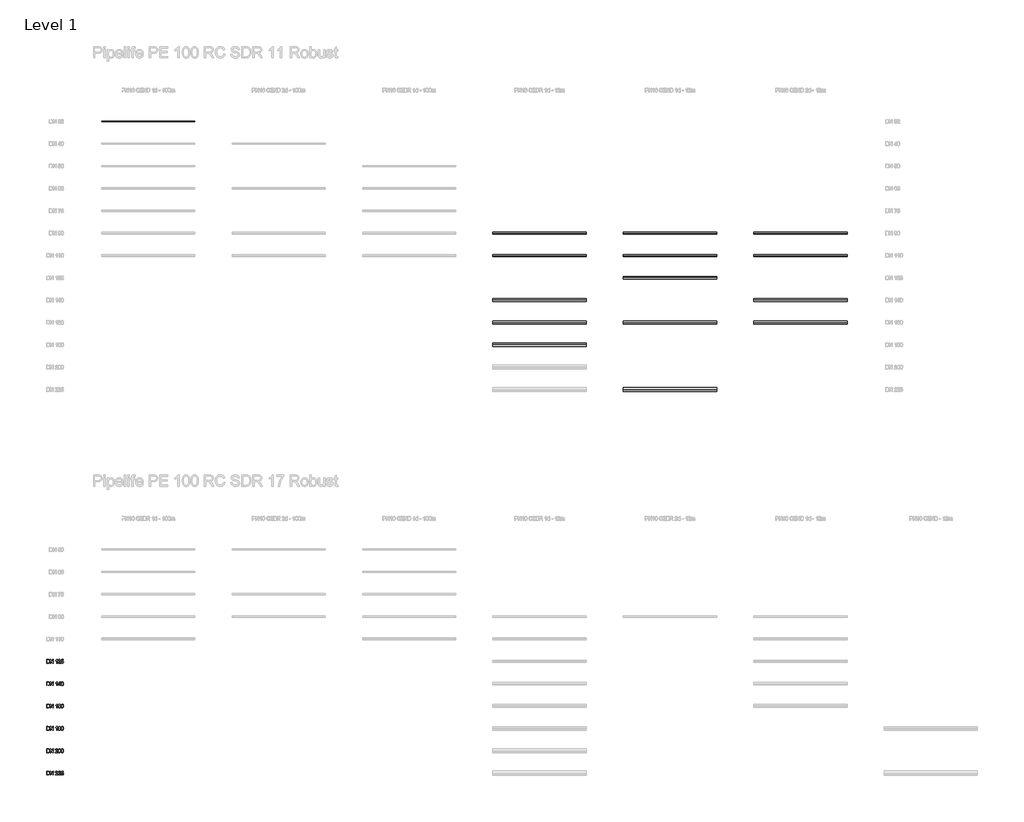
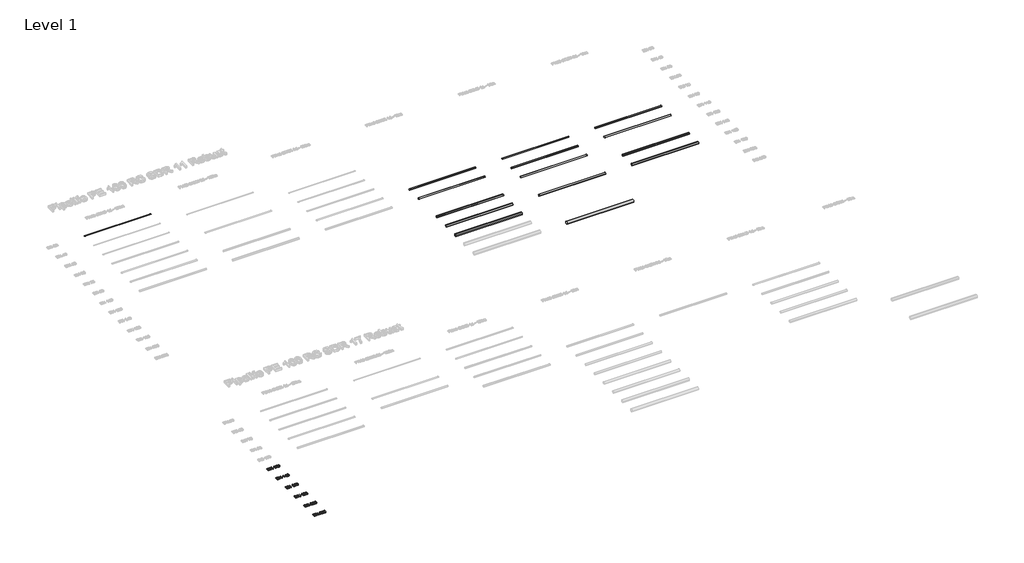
# One storey, part 2 of 13: 15 pipe segments, 6 proxies.
"""IFC4 building model written with IfcOpenShell, lengths in millimetres."""

from ifc_helpers import new_model, si_unit, point, frame, frame_2d, origin, origin_with_axes, place, context, project, spatial, polyline, circle_curve, trimmed, segment, composite_curve, outline, extrude, element, save

model = new_model("IFC4")

# Units and contexts
model_context = context("Model", 3, world=origin())
ifc_project = project(units=[si_unit("LENGTHUNIT", "METRE", prefix="MILLI")], contexts=[model_context])

# Site, building, storey
site = spatial("IfcSite", under=ifc_project)
building = spatial("IfcBuilding", under=site)
storey = spatial("IfcBuildingStorey", under=building, Name="Level 1", Elevation=0.0)

# Proxies
placement = place(None, origin())
element("IfcBuildingElementProxy", 1, Name="200mm Arial", ObjectType="200mm Arial", at=placement, inside=storey, context=model_context, shape_type="SweptSolid", body=[
    extrude(outline(polyline([(-19491.3116028, -30913.949573), (-19491.3116028, -30713.0369527), (-19422.0026349, -30713.0369527), (-19386.1464031, -30715.9309577), (-19370.1312736, -30721.5105013), (-19356.6177416, -30730.302881), (-19342.724065, -30745.606772), (-19332.8280393, -30764.6385338), (-19326.9051392, -30787.0302846), (-19324.9308391, -30812.4141423), (-19330.2773908, -30852.9547382), (-19344.0116519, -30882.2136195), (-19362.3567008, -30900.436041), (-19386.3671323, -30910.5160077), (-19418.6671715, -30913.949573), (-19491.3116028, -30913.949573)]), holes=[polyline([(-19466.1975253, -30888.8354954), (-19421.7573803, -30888.8354954), (-19389.4328156, -30885.2057264), (-19370.7934612, -30874.9540815), (-19362.0685265, -30864.0831685), (-19355.5140957, -30850.0116822), (-19351.4122114, -30832.6783089), (-19350.0449167, -30812.0217348), (-19352.7243239, -30784.6513144), (-19360.7625455, -30764.4423301), (-19372.6390025, -30750.5609162), (-19386.8331162, -30742.1732067), (-19422.4440933, -30738.1510302), (-19466.1975253, -30738.1510302), (-19466.1975253, -30888.8354954)])]), origin_with_axes(), (0.0, 0.0, 1.0), 50.0),
    extrude(outline(polyline([(-19290.3989825, -30913.949573), (-19290.3989825, -30713.0369527), (-19263.5190714, -30713.0369527), (-19158.5500754, -30872.2072292), (-19158.5500754, -30713.0369527), (-19133.4359979, -30713.0369527), (-19133.4359979, -30913.949573), (-19160.315909, -30913.949573), (-19265.284905, -30754.7302454), (-19265.284905, -30913.949573), (-19290.3989825, -30913.949573)])), origin_with_axes(), (0.0, 0.0, 1.0), 50.0),
    extrude(outline(polyline([(-18926.2448582, -30913.949573), (-18951.3589358, -30913.949573), (-18951.3589358, -30757.3789958), (-18975.1486381, -30774.3260931), (-19001.5870908, -30787.0057592), (-19001.5870908, -30763.2651077), (-18964.7743658, -30739.769711), (-18951.3037535, -30726.1948653), (-18942.431666, -30713.0369527), (-18926.2448582, -30713.0369527), (-18926.2448582, -30913.949573)])), origin_with_axes(), (0.0, 0.0, 1.0), 50.0),
    extrude(outline(polyline([(-18737.8892767, -30766.4043674), (-18763.0033542, -30769.5436271), (-18772.5192352, -30748.5988789), (-18783.9113143, -30740.7629924), (-18797.6823636, -30738.1510302), (-18820.3438945, -30744.2333458), (-18829.7800677, -30753.8411973), (-18837.4871955, -30767.066555), (-18842.6927257, -30785.7733545), (-18844.6241062, -30811.8255311), (-18834.5502709, -30800.0717013), (-18822.4776101, -30791.7882251), (-18809.0805741, -30786.8770005), (-18795.0336133, -30785.2399256), (-18771.8325221, -30789.7158232), (-18752.3593018, -30803.143516), (-18739.1523382, -30823.6590686), (-18734.750017, -30849.3985455), (-18736.8224189, -30867.3818437), (-18743.0396246, -30884.0530295), (-18752.8865994, -30898.1919608), (-18765.8483083, -30908.5784958), (-18781.3361403, -30914.9612484), (-18798.7614842, -30917.0888326), (-18827.2539447, -30911.4479754), (-18849.9461324, -30894.5254036), (-18858.6051549, -30881.4165418), (-18864.7901709, -30864.6533856), (-18869.7381838, -30820.1641897), (-18864.2444793, -30770.144501), (-18857.3773487, -30751.0667539), (-18847.7633659, -30735.9437382), (-18837.3431084, -30725.9220195), (-18825.2612505, -30718.763649), (-18796.1127338, -30713.0369527), (-18774.0766023, -30716.5808825), (-18756.4305292, -30727.2126722), (-18744.0696942, -30744.0984558), (-18737.8892767, -30766.4043674)]), holes=[polyline([(-18844.6241062, -30849.0061381), (-18838.8115707, -30870.7602267), (-18823.3605269, -30886.554627), (-18800.7235215, -30891.9747551), (-18784.1504376, -30889.1665892), (-18771.1212836, -30880.7420915), (-18762.6783918, -30867.4983397), (-18759.8640945, -30850.2324114), (-18762.6416036, -30833.6593275), (-18770.9741308, -30821.022581), (-18784.224014, -30813.0211476), (-18801.7535911, -30810.3540031), (-18818.3021495, -30813.0211476), (-18832.1406439, -30821.022581), (-18841.5032406, -30833.3527592), (-18844.6241062, -30849.0061381)])]), origin_with_axes(), (0.0, 0.0, 1.0), 50.0),
    extrude(outline(polyline([(-18712.7751992, -30815.1119436), (-18710.9296578, -30782.9529258), (-18705.3930338, -30757.3054194), (-18696.2205094, -30737.7770168), (-18683.4672669, -30723.9753106), (-18667.0413358, -30715.7715422), (-18646.8507456, -30713.0369527), (-18631.3751764, -30714.6556334), (-18617.5182879, -30719.5116758), (-18605.930005, -30727.4150073), (-18597.2602527, -30738.1755557), (-18585.4880288, -30767.9004209), (-18580.9262921, -30815.1119436), (-18582.7534393, -30847.0870203), (-18588.2348811, -30872.6732131), (-18597.3522232, -30892.2200098), (-18610.0870716, -30906.0768983), (-18626.5497909, -30914.335849), (-18646.8507456, -30917.0888326), (-18672.9458418, -30912.3063667), (-18692.7624186, -30897.9589689), (-18701.5180101, -30882.8298218), (-18707.772004, -30863.9789353), (-18712.7751992, -30815.1119436)]), holes=[polyline([(-18687.6611216, -30815.0628927), (-18684.7180657, -30854.5672876), (-18675.8888978, -30877.4311536), (-18662.7432478, -30888.3388547), (-18646.8507456, -30891.9747551), (-18630.9582434, -30888.326592), (-18617.8125935, -30877.3821026), (-18608.9834256, -30854.5059739), (-18606.0403696, -30815.0628927), (-18608.8853237, -30776.4475459), (-18617.420186, -30753.4058703), (-18630.5413105, -30741.9647402), (-18647.1450512, -30738.1510302), (-18662.8658751, -30741.5110191), (-18675.4964903, -30751.5909857), (-18684.6199638, -30776.0674012), (-18687.6611216, -30815.0628927)])]), origin_with_axes(), (0.0, 0.0, 1.0), 50.0),
])
element("IfcBuildingElementProxy", 2, Name="200mm Arial", ObjectType="200mm Arial", at=placement, inside=storey, context=model_context, shape_type="SweptSolid", body=[
    extrude(outline(polyline([(-19491.3116028, -33313.949573), (-19491.3116028, -33113.0369527), (-19422.0026349, -33113.0369527), (-19386.1464031, -33115.9309577), (-19370.1312736, -33121.5105013), (-19356.6177416, -33130.302881), (-19342.724065, -33145.606772), (-19332.8280393, -33164.6385338), (-19326.9051392, -33187.0302846), (-19324.9308391, -33212.4141423), (-19330.2773908, -33252.9547382), (-19344.0116519, -33282.2136195), (-19362.3567008, -33300.436041), (-19386.3671323, -33310.5160077), (-19418.6671715, -33313.949573), (-19491.3116028, -33313.949573)]), holes=[polyline([(-19466.1975253, -33288.8354954), (-19421.7573803, -33288.8354954), (-19389.4328156, -33285.2057264), (-19370.7934612, -33274.9540815), (-19362.0685265, -33264.0831685), (-19355.5140957, -33250.0116822), (-19351.4122114, -33232.6783089), (-19350.0449167, -33212.0217348), (-19352.7243239, -33184.6513144), (-19360.7625455, -33164.4423301), (-19372.6390025, -33150.5609162), (-19386.8331162, -33142.1732067), (-19422.4440933, -33138.1510302), (-19466.1975253, -33138.1510302), (-19466.1975253, -33288.8354954)])]), origin_with_axes(), (0.0, 0.0, 1.0), 50.0),
    extrude(outline(polyline([(-19290.3989825, -33313.949573), (-19290.3989825, -33113.0369527), (-19263.5190714, -33113.0369527), (-19158.5500754, -33272.2072292), (-19158.5500754, -33113.0369527), (-19133.4359979, -33113.0369527), (-19133.4359979, -33313.949573), (-19160.315909, -33313.949573), (-19265.284905, -33154.7302454), (-19265.284905, -33313.949573), (-19290.3989825, -33313.949573)])), origin_with_axes(), (0.0, 0.0, 1.0), 50.0),
    extrude(outline(polyline([(-18891.7130016, -33288.8354954), (-18891.7130016, -33313.949573), (-19023.5619087, -33313.949573), (-19020.8641074, -33296.6345937), (-19005.6092673, -33269.9754118), (-18974.1676195, -33240.8636832), (-18930.806595, -33199.0232377), (-18922.6764029, -33184.6022634), (-18919.9663388, -33170.5736967), (-18922.5231187, -33157.9982638), (-18930.1934583, -33147.5442838), (-18941.9840762, -33140.4993436), (-18956.9016912, -33138.1510302), (-18972.5673328, -33140.4441613), (-18984.7380955, -33147.3235546), (-18992.5923761, -33158.2496499), (-18995.3085714, -33172.6828868), (-19020.422649, -33169.5436271), (-19014.334202, -33145.2511527), (-19001.1701579, -33127.5069778), (-18981.6172299, -33116.6544589), (-18956.3621309, -33113.0369527), (-18930.9230909, -33117.0591291), (-18911.4069511, -33129.1256586), (-18898.9909337, -33147.1518763), (-18894.8522613, -33169.0531178), (-18899.3158962, -33192.8673456), (-18914.1538033, -33217.4909138), (-18950.1326624, -33251.9001431), (-18979.0236618, -33276.0577275), (-18990.3544272, -33288.8354954), (-18891.7130016, -33288.8354954)])), origin_with_axes(), (0.0, 0.0, 1.0), 50.0),
    extrude(outline(polyline([(-18866.5989241, -33215.1119436), (-18864.7533827, -33182.9529258), (-18859.2167587, -33157.3054194), (-18850.0442343, -33137.7770168), (-18837.2909918, -33123.9753106), (-18820.8650607, -33115.7715422), (-18800.6744705, -33113.0369527), (-18785.1989013, -33114.6556334), (-18771.3420128, -33119.5116758), (-18759.7537299, -33127.4150073), (-18751.0839776, -33138.1755557), (-18739.3117537, -33167.9004209), (-18734.750017, -33215.1119436), (-18736.5771642, -33247.0870203), (-18742.058606, -33272.6732131), (-18751.1759481, -33292.2200098), (-18763.9107965, -33306.0768983), (-18780.3735158, -33314.335849), (-18800.6744705, -33317.0888326), (-18826.7695667, -33312.3063667), (-18846.5861435, -33297.9589689), (-18855.341735, -33282.8298218), (-18861.5957289, -33263.9789353), (-18866.5989241, -33215.1119436)]), holes=[polyline([(-18841.4848465, -33215.0628927), (-18838.5417906, -33254.5672876), (-18829.7126227, -33277.4311536), (-18816.5669727, -33288.3388547), (-18800.6744705, -33291.9747551), (-18784.7819683, -33288.326592), (-18771.6363184, -33277.3821026), (-18762.8071505, -33254.5059739), (-18759.8640945, -33215.0628927), (-18762.7090486, -33176.4475459), (-18771.2439109, -33153.4058703), (-18784.3650354, -33141.9647402), (-18800.9687761, -33138.1510302), (-18816.6896001, -33141.5110191), (-18829.3202152, -33151.5909857), (-18838.4436887, -33176.0674012), (-18841.4848465, -33215.0628927)])]), origin_with_axes(), (0.0, 0.0, 1.0), 50.0),
    extrude(outline(polyline([(-18712.7751992, -33215.1119436), (-18710.9296578, -33182.9529258), (-18705.3930338, -33157.3054194), (-18696.2205094, -33137.7770168), (-18683.4672669, -33123.9753106), (-18667.0413358, -33115.7715422), (-18646.8507456, -33113.0369527), (-18631.3751764, -33114.6556334), (-18617.5182879, -33119.5116758), (-18605.930005, -33127.4150073), (-18597.2602527, -33138.1755557), (-18585.4880288, -33167.9004209), (-18580.9262921, -33215.1119436), (-18582.7534393, -33247.0870203), (-18588.2348811, -33272.6732131), (-18597.3522232, -33292.2200098), (-18610.0870716, -33306.0768983), (-18626.5497909, -33314.335849), (-18646.8507456, -33317.0888326), (-18672.9458418, -33312.3063667), (-18692.7624186, -33297.9589689), (-18701.5180101, -33282.8298218), (-18707.772004, -33263.9789353), (-18712.7751992, -33215.1119436)]), holes=[polyline([(-18687.6611216, -33215.0628927), (-18684.7180657, -33254.5672876), (-18675.8888978, -33277.4311536), (-18662.7432478, -33288.3388547), (-18646.8507456, -33291.9747551), (-18630.9582434, -33288.326592), (-18617.8125935, -33277.3821026), (-18608.9834256, -33254.5059739), (-18606.0403696, -33215.0628927), (-18608.8853237, -33176.4475459), (-18617.420186, -33153.4058703), (-18630.5413105, -33141.9647402), (-18647.1450512, -33138.1510302), (-18662.8658751, -33141.5110191), (-18675.4964903, -33151.5909857), (-18684.6199638, -33176.0674012), (-18687.6611216, -33215.0628927)])]), origin_with_axes(), (0.0, 0.0, 1.0), 50.0),
])
element("IfcBuildingElementProxy", 3, Name="200mm Arial", ObjectType="200mm Arial", at=placement, inside=storey, context=model_context, shape_type="SweptSolid", body=[
    extrude(outline(polyline([(-19491.3116028, -28513.949573), (-19491.3116028, -28313.0369527), (-19422.0026349, -28313.0369527), (-19386.1464031, -28315.9309577), (-19370.1312736, -28321.5105013), (-19356.6177416, -28330.302881), (-19342.724065, -28345.606772), (-19332.8280393, -28364.6385338), (-19326.9051392, -28387.0302846), (-19324.9308391, -28412.4141423), (-19330.2773908, -28452.9547382), (-19344.0116519, -28482.2136195), (-19362.3567008, -28500.436041), (-19386.3671323, -28510.5160077), (-19418.6671715, -28513.949573), (-19491.3116028, -28513.949573)]), holes=[polyline([(-19466.1975253, -28488.8354954), (-19421.7573803, -28488.8354954), (-19389.4328156, -28485.2057264), (-19370.7934612, -28474.9540815), (-19362.0685265, -28464.0831685), (-19355.5140957, -28450.0116822), (-19351.4122114, -28432.6783089), (-19350.0449167, -28412.0217348), (-19352.7243239, -28384.6513144), (-19360.7625455, -28364.4423301), (-19372.6390025, -28350.5609162), (-19386.8331162, -28342.1732067), (-19422.4440933, -28338.1510302), (-19466.1975253, -28338.1510302), (-19466.1975253, -28488.8354954)])]), origin_with_axes(), (0.0, 0.0, 1.0), 50.0),
    extrude(outline(polyline([(-19290.3989825, -28513.949573), (-19290.3989825, -28313.0369527), (-19263.5190714, -28313.0369527), (-19158.5500754, -28472.2072292), (-19158.5500754, -28313.0369527), (-19133.4359979, -28313.0369527), (-19133.4359979, -28513.949573), (-19160.315909, -28513.949573), (-19265.284905, -28354.7302454), (-19265.284905, -28513.949573), (-19290.3989825, -28513.949573)])), origin_with_axes(), (0.0, 0.0, 1.0), 50.0),
    extrude(outline(polyline([(-18926.2448582, -28513.949573), (-18951.3589358, -28513.949573), (-18951.3589358, -28357.3789958), (-18975.1486381, -28374.3260931), (-19001.5870908, -28387.0057592), (-19001.5870908, -28363.2651077), (-18964.7743658, -28339.769711), (-18951.3037535, -28326.1948653), (-18942.431666, -28313.0369527), (-18926.2448582, -28313.0369527), (-18926.2448582, -28513.949573)])), origin_with_axes(), (0.0, 0.0, 1.0), 50.0),
    extrude(outline(polyline([(-18737.8892767, -28488.8354954), (-18737.8892767, -28513.949573), (-18869.7381838, -28513.949573), (-18867.0403825, -28496.6345937), (-18851.7855424, -28469.9754118), (-18820.3438945, -28440.8636832), (-18776.98287, -28399.0232377), (-18768.852678, -28384.6022634), (-18766.1426139, -28370.5736967), (-18768.6993938, -28357.9982638), (-18776.3697334, -28347.5442838), (-18788.1603513, -28340.4993436), (-18803.0779662, -28338.1510302), (-18818.7436079, -28340.4441613), (-18830.9143705, -28347.3235546), (-18838.7686511, -28358.2496499), (-18841.4848465, -28372.6828868), (-18866.5989241, -28369.5436271), (-18860.510477, -28345.2511527), (-18847.346433, -28327.5069778), (-18827.7935049, -28316.6544589), (-18802.538406, -28313.0369527), (-18777.099366, -28317.0591291), (-18757.5832262, -28329.1256586), (-18745.1672088, -28347.1518763), (-18741.0285364, -28369.0531178), (-18745.4921713, -28392.8673456), (-18760.3300784, -28417.4909138), (-18796.3089375, -28451.9001431), (-18825.1999369, -28476.0577275), (-18836.5307023, -28488.8354954), (-18737.8892767, -28488.8354954)])), origin_with_axes(), (0.0, 0.0, 1.0), 50.0),
    extrude(outline(polyline([(-18712.7751992, -28460.5821582), (-18687.6611216, -28457.4428985), (-18683.0503339, -28472.5199289), (-18675.005981, -28483.3172655), (-18663.5648509, -28489.8103827), (-18648.763732, -28491.9747551), (-18630.7620397, -28488.9642541), (-18617.2730332, -28479.9327511), (-18608.8485355, -28465.9225785), (-18606.0403696, -28447.9760685), (-18608.6707259, -28431.0780222), (-18616.5617947, -28418.1531014), (-18629.7748897, -28409.9493329), (-18648.3713245, -28407.2147434), (-18670.4197188, -28411.5802764), (-18684.5218619, -28422.9110419), (-18709.6359395, -28419.7717822), (-18687.6611216, -28316.1762123), (-18590.3440712, -28316.1762123), (-18590.3440712, -28341.2902899), (-18667.3540355, -28341.2902899), (-18678.0961897, -28396.619742), (-18660.1558111, -28385.7304349), (-18641.3570412, -28382.1006659), (-18617.8923012, -28386.601089), (-18598.4129496, -28400.1023582), (-18585.2979565, -28420.6792244), (-18580.9262921, -28446.4064386), (-18584.8626294, -28471.5205162), (-18596.6716415, -28493.0048247), (-18607.1072274, -28503.5415782), (-18619.2841214, -28511.0678307), (-18633.2023236, -28515.5835821), (-18648.8618339, -28517.0888326), (-18673.5283216, -28513.2199403), (-18693.1793515, -28501.6132634), (-18706.6499639, -28483.6177025), (-18712.7751992, -28460.5821582)])), origin_with_axes(), (0.0, 0.0, 1.0), 50.0),
])
element("IfcBuildingElementProxy", 4, Name="200mm Arial", ObjectType="200mm Arial", at=placement, inside=storey, context=model_context, shape_type="SweptSolid", body=[
    extrude(outline(polyline([(-19491.3116028, -29713.949573), (-19491.3116028, -29513.0369527), (-19422.0026349, -29513.0369527), (-19386.1464031, -29515.9309577), (-19370.1312736, -29521.5105013), (-19356.6177416, -29530.302881), (-19342.724065, -29545.606772), (-19332.8280393, -29564.6385338), (-19326.9051392, -29587.0302846), (-19324.9308391, -29612.4141423), (-19330.2773908, -29652.9547382), (-19344.0116519, -29682.2136195), (-19362.3567008, -29700.436041), (-19386.3671323, -29710.5160077), (-19418.6671715, -29713.949573), (-19491.3116028, -29713.949573)]), holes=[polyline([(-19466.1975253, -29688.8354954), (-19421.7573803, -29688.8354954), (-19389.4328156, -29685.2057264), (-19370.7934612, -29674.9540815), (-19362.0685265, -29664.0831685), (-19355.5140957, -29650.0116822), (-19351.4122114, -29632.6783089), (-19350.0449167, -29612.0217348), (-19352.7243239, -29584.6513144), (-19360.7625455, -29564.4423301), (-19372.6390025, -29550.5609162), (-19386.8331162, -29542.1732067), (-19422.4440933, -29538.1510302), (-19466.1975253, -29538.1510302), (-19466.1975253, -29688.8354954)])]), origin_with_axes(), (0.0, 0.0, 1.0), 50.0),
    extrude(outline(polyline([(-19290.3989825, -29713.949573), (-19290.3989825, -29513.0369527), (-19263.5190714, -29513.0369527), (-19158.5500754, -29672.2072292), (-19158.5500754, -29513.0369527), (-19133.4359979, -29513.0369527), (-19133.4359979, -29713.949573), (-19160.315909, -29713.949573), (-19265.284905, -29554.7302454), (-19265.284905, -29713.949573), (-19290.3989825, -29713.949573)])), origin_with_axes(), (0.0, 0.0, 1.0), 50.0),
    extrude(outline(polyline([(-18926.2448582, -29713.949573), (-18951.3589358, -29713.949573), (-18951.3589358, -29557.3789958), (-18975.1486381, -29574.3260931), (-19001.5870908, -29587.0057592), (-19001.5870908, -29563.2651077), (-18964.7743658, -29539.769711), (-18951.3037535, -29526.1948653), (-18942.431666, -29513.0369527), (-18926.2448582, -29513.0369527), (-18926.2448582, -29713.949573)])), origin_with_axes(), (0.0, 0.0, 1.0), 50.0),
    extrude(outline(polyline([(-18784.9781721, -29713.949573), (-18784.9781721, -29666.8606776), (-18876.0167031, -29666.8606776), (-18876.0167031, -29641.7466), (-18778.6996527, -29516.1762123), (-18759.8640945, -29516.1762123), (-18759.8640945, -29641.7466), (-18734.750017, -29641.7466), (-18734.750017, -29666.8606776), (-18759.8640945, -29666.8606776), (-18759.8640945, -29713.949573), (-18784.9781721, -29713.949573)]), holes=[polyline([(-18784.9781721, -29641.7466), (-18784.9781721, -29564.1480245), (-18845.1146156, -29641.7466), (-18784.9781721, -29641.7466)])]), origin_with_axes(), (0.0, 0.0, 1.0), 50.0),
    extrude(outline(polyline([(-18712.7751992, -29615.1119436), (-18710.9296578, -29582.9529258), (-18705.3930338, -29557.3054194), (-18696.2205094, -29537.7770168), (-18683.4672669, -29523.9753106), (-18667.0413358, -29515.7715422), (-18646.8507456, -29513.0369527), (-18631.3751764, -29514.6556334), (-18617.5182879, -29519.5116758), (-18605.930005, -29527.4150073), (-18597.2602527, -29538.1755557), (-18585.4880288, -29567.9004209), (-18580.9262921, -29615.1119436), (-18582.7534393, -29647.0870203), (-18588.2348811, -29672.6732131), (-18597.3522232, -29692.2200098), (-18610.0870716, -29706.0768983), (-18626.5497909, -29714.335849), (-18646.8507456, -29717.0888326), (-18672.9458418, -29712.3063667), (-18692.7624186, -29697.9589689), (-18701.5180101, -29682.8298218), (-18707.772004, -29663.9789353), (-18712.7751992, -29615.1119436)]), holes=[polyline([(-18687.6611216, -29615.0628927), (-18684.7180657, -29654.5672876), (-18675.8888978, -29677.4311536), (-18662.7432478, -29688.3388547), (-18646.8507456, -29691.9747551), (-18630.9582434, -29688.326592), (-18617.8125935, -29677.3821026), (-18608.9834256, -29654.5059739), (-18606.0403696, -29615.0628927), (-18608.8853237, -29576.4475459), (-18617.420186, -29553.4058703), (-18630.5413105, -29541.9647402), (-18647.1450512, -29538.1510302), (-18662.8658751, -29541.5110191), (-18675.4964903, -29551.5909857), (-18684.6199638, -29576.0674012), (-18687.6611216, -29615.0628927)])]), origin_with_axes(), (0.0, 0.0, 1.0), 50.0),
])
element("IfcBuildingElementProxy", 5, Name="200mm Arial", ObjectType="200mm Arial", at=placement, inside=storey, context=model_context, shape_type="SweptSolid", body=[
    extrude(outline(polyline([(-19491.3116028, -32113.949573), (-19491.3116028, -31913.0369527), (-19422.0026349, -31913.0369527), (-19386.1464031, -31915.9309577), (-19370.1312736, -31921.5105013), (-19356.6177416, -31930.302881), (-19342.724065, -31945.606772), (-19332.8280393, -31964.6385338), (-19326.9051392, -31987.0302846), (-19324.9308391, -32012.4141423), (-19330.2773908, -32052.9547382), (-19344.0116519, -32082.2136195), (-19362.3567008, -32100.436041), (-19386.3671323, -32110.5160077), (-19418.6671715, -32113.949573), (-19491.3116028, -32113.949573)]), holes=[polyline([(-19466.1975253, -32088.8354954), (-19421.7573803, -32088.8354954), (-19389.4328156, -32085.2057264), (-19370.7934612, -32074.9540815), (-19362.0685265, -32064.0831685), (-19355.5140957, -32050.0116822), (-19351.4122114, -32032.6783089), (-19350.0449167, -32012.0217348), (-19352.7243239, -31984.6513144), (-19360.7625455, -31964.4423301), (-19372.6390025, -31950.5609162), (-19386.8331162, -31942.1732067), (-19422.4440933, -31938.1510302), (-19466.1975253, -31938.1510302), (-19466.1975253, -32088.8354954)])]), origin_with_axes(), (0.0, 0.0, 1.0), 50.0),
    extrude(outline(polyline([(-19290.3989825, -32113.949573), (-19290.3989825, -31913.0369527), (-19263.5190714, -31913.0369527), (-19158.5500754, -32072.2072292), (-19158.5500754, -31913.0369527), (-19133.4359979, -31913.0369527), (-19133.4359979, -32113.949573), (-19160.315909, -32113.949573), (-19265.284905, -31954.7302454), (-19265.284905, -32113.949573), (-19290.3989825, -32113.949573)])), origin_with_axes(), (0.0, 0.0, 1.0), 50.0),
    extrude(outline(polyline([(-18926.2448582, -32113.949573), (-18951.3589358, -32113.949573), (-18951.3589358, -31957.3789958), (-18975.1486381, -31974.3260931), (-19001.5870908, -31987.0057592), (-19001.5870908, -31963.2651077), (-18964.7743658, -31939.769711), (-18951.3037535, -31926.1948653), (-18942.431666, -31913.0369527), (-18926.2448582, -31913.0369527), (-18926.2448582, -32113.949573)])), origin_with_axes(), (0.0, 0.0, 1.0), 50.0),
    extrude(outline(polyline([(-18830.0069283, -32003.2906688), (-18843.4530152, -31996.6687929), (-18852.8891884, -31987.6924722), (-18858.4626006, -31976.5456478), (-18860.3204047, -31963.4122605), (-18856.2737027, -31943.7796247), (-18844.1335969, -31927.5560287), (-18825.2612505, -31916.6667217), (-18801.0178271, -31913.0369527), (-18776.6272508, -31916.7525608), (-18757.5096498, -31927.8993853), (-18745.1488147, -31944.3804986), (-18741.0285364, -31964.0989736), (-18742.861815, -31976.8092965), (-18748.3616508, -31987.7660486), (-18757.5893575, -31996.687187), (-18770.6062488, -32003.2906688), (-18755.1490736, -32011.255314), (-18743.8980159, -32022.9846183), (-18737.0370167, -32037.9144959), (-18734.750017, -32055.4808612), (-18739.2872283, -32079.4912927), (-18752.8988621, -32099.332395), (-18773.9171868, -32112.6497232), (-18800.6744705, -32117.0888326), (-18827.4317543, -32112.6313291), (-18848.450079, -32099.2588186), (-18862.0617128, -32079.227644), (-18866.5989241, -32054.7941481), (-18864.2199538, -32036.5472012), (-18857.0830431, -32021.5376158), (-18845.5560739, -32010.2804267), (-18830.0069283, -32003.2906688)]), holes=[polyline([(-18835.2063271, -31964.1480245), (-18832.9806411, -31975.110908), (-18826.3035829, -31983.8664995), (-18815.3713562, -31989.6054586), (-18800.3801649, -31991.518445), (-18785.7384615, -31989.6177213), (-18774.9717818, -31983.9155504), (-18768.3499059, -31975.4542645), (-18766.1426139, -31965.276196), (-18768.4234823, -31954.7118513), (-18775.2660874, -31945.974654), (-18786.1799199, -31940.1069361), (-18800.6744705, -31938.1510302), (-18815.2609916, -31940.0640166), (-18826.1564301, -31945.8029757), (-18832.9438529, -31954.2152106), (-18835.2063271, -31964.1480245)]), polyline([(-18841.4848465, -32053.9112313), (-18837.2909918, -32072.8203659), (-18831.4845876, -32080.9321639), (-18822.4530846, -32086.97156), (-18800.4782668, -32091.9747551), (-18783.3840168, -32089.3443988), (-18770.5571979, -32081.45333), (-18762.5373704, -32069.5032966), (-18759.8640945, -32054.6960463), (-18762.6232095, -32039.6374099), (-18770.9005544, -32027.4237277), (-18784.0216789, -32019.3303238), (-18801.3121327, -32016.6325225), (-18818.1672594, -32019.2935356), (-18830.8653196, -32027.2765749), (-18838.8299648, -32039.2572652), (-18841.4848465, -32053.9112313)])]), origin_with_axes(), (0.0, 0.0, 1.0), 50.0),
    extrude(outline(polyline([(-18712.7751992, -32015.1119436), (-18710.9296578, -31982.9529258), (-18705.3930338, -31957.3054194), (-18696.2205094, -31937.7770168), (-18683.4672669, -31923.9753106), (-18667.0413358, -31915.7715422), (-18646.8507456, -31913.0369527), (-18631.3751764, -31914.6556334), (-18617.5182879, -31919.5116758), (-18605.930005, -31927.4150073), (-18597.2602527, -31938.1755557), (-18585.4880288, -31967.9004209), (-18580.9262921, -32015.1119436), (-18582.7534393, -32047.0870203), (-18588.2348811, -32072.6732131), (-18597.3522232, -32092.2200098), (-18610.0870716, -32106.0768983), (-18626.5497909, -32114.335849), (-18646.8507456, -32117.0888326), (-18672.9458418, -32112.3063667), (-18692.7624186, -32097.9589689), (-18701.5180101, -32082.8298218), (-18707.772004, -32063.9789353), (-18712.7751992, -32015.1119436)]), holes=[polyline([(-18687.6611216, -32015.0628927), (-18684.7180657, -32054.5672876), (-18675.8888978, -32077.4311536), (-18662.7432478, -32088.3388547), (-18646.8507456, -32091.9747551), (-18630.9582434, -32088.326592), (-18617.8125935, -32077.3821026), (-18608.9834256, -32054.5059739), (-18606.0403696, -32015.0628927), (-18608.8853237, -31976.4475459), (-18617.420186, -31953.4058703), (-18630.5413105, -31941.9647402), (-18647.1450512, -31938.1510302), (-18662.8658751, -31941.5110191), (-18675.4964903, -31951.5909857), (-18684.6199638, -31976.0674012), (-18687.6611216, -32015.0628927)])]), origin_with_axes(), (0.0, 0.0, 1.0), 50.0),
])
element("IfcBuildingElementProxy", 6, Name="200mm Arial", ObjectType="200mm Arial", at=placement, inside=storey, context=model_context, shape_type="SweptSolid", body=[
    extrude(outline(polyline([(-19491.3116028, -34513.949573), (-19491.3116028, -34313.0369527), (-19422.0026349, -34313.0369527), (-19386.1464031, -34315.9309577), (-19370.1312736, -34321.5105013), (-19356.6177416, -34330.302881), (-19342.724065, -34345.606772), (-19332.8280393, -34364.6385338), (-19326.9051392, -34387.0302846), (-19324.9308391, -34412.4141423), (-19330.2773908, -34452.9547382), (-19344.0116519, -34482.2136195), (-19362.3567008, -34500.436041), (-19386.3671323, -34510.5160077), (-19418.6671715, -34513.949573), (-19491.3116028, -34513.949573)]), holes=[polyline([(-19466.1975253, -34488.8354954), (-19421.7573803, -34488.8354954), (-19389.4328156, -34485.2057264), (-19370.7934612, -34474.9540815), (-19362.0685265, -34464.0831685), (-19355.5140957, -34450.0116822), (-19351.4122114, -34432.6783089), (-19350.0449167, -34412.0217348), (-19352.7243239, -34384.6513144), (-19360.7625455, -34364.4423301), (-19372.6390025, -34350.5609162), (-19386.8331162, -34342.1732067), (-19422.4440933, -34338.1510302), (-19466.1975253, -34338.1510302), (-19466.1975253, -34488.8354954)])]), origin_with_axes(), (0.0, 0.0, 1.0), 50.0),
    extrude(outline(polyline([(-19290.3989825, -34513.949573), (-19290.3989825, -34313.0369527), (-19263.5190714, -34313.0369527), (-19158.5500754, -34472.2072292), (-19158.5500754, -34313.0369527), (-19133.4359979, -34313.0369527), (-19133.4359979, -34513.949573), (-19160.315909, -34513.949573), (-19265.284905, -34354.7302454), (-19265.284905, -34513.949573), (-19290.3989825, -34513.949573)])), origin_with_axes(), (0.0, 0.0, 1.0), 50.0),
    extrude(outline(polyline([(-18891.7130016, -34488.8354954), (-18891.7130016, -34513.949573), (-19023.5619087, -34513.949573), (-19020.8641074, -34496.6345937), (-19005.6092673, -34469.9754118), (-18974.1676195, -34440.8636832), (-18930.806595, -34399.0232377), (-18922.6764029, -34384.6022634), (-18919.9663388, -34370.5736967), (-18922.5231187, -34357.9982638), (-18930.1934583, -34347.5442838), (-18941.9840762, -34340.4993436), (-18956.9016912, -34338.1510302), (-18972.5673328, -34340.4441613), (-18984.7380955, -34347.3235546), (-18992.5923761, -34358.2496499), (-18995.3085714, -34372.6828868), (-19020.422649, -34369.5436271), (-19014.334202, -34345.2511527), (-19001.1701579, -34327.5069778), (-18981.6172299, -34316.6544589), (-18956.3621309, -34313.0369527), (-18930.9230909, -34317.0591291), (-18911.4069511, -34329.1256586), (-18898.9909337, -34347.1518763), (-18894.8522613, -34369.0531178), (-18899.3158962, -34392.8673456), (-18914.1538033, -34417.4909138), (-18950.1326624, -34451.9001431), (-18979.0236618, -34476.0577275), (-18990.3544272, -34488.8354954), (-18891.7130016, -34488.8354954)])), origin_with_axes(), (0.0, 0.0, 1.0), 50.0),
    extrude(outline(polyline([(-18737.8892767, -34488.8354954), (-18737.8892767, -34513.949573), (-18869.7381838, -34513.949573), (-18867.0403825, -34496.6345937), (-18851.7855424, -34469.9754118), (-18820.3438945, -34440.8636832), (-18776.98287, -34399.0232377), (-18768.852678, -34384.6022634), (-18766.1426139, -34370.5736967), (-18768.6993938, -34357.9982638), (-18776.3697334, -34347.5442838), (-18788.1603513, -34340.4993436), (-18803.0779662, -34338.1510302), (-18818.7436079, -34340.4441613), (-18830.9143705, -34347.3235546), (-18838.7686511, -34358.2496499), (-18841.4848465, -34372.6828868), (-18866.5989241, -34369.5436271), (-18860.510477, -34345.2511527), (-18847.346433, -34327.5069778), (-18827.7935049, -34316.6544589), (-18802.538406, -34313.0369527), (-18777.099366, -34317.0591291), (-18757.5832262, -34329.1256586), (-18745.1672088, -34347.1518763), (-18741.0285364, -34369.0531178), (-18745.4921713, -34392.8673456), (-18760.3300784, -34417.4909138), (-18796.3089375, -34451.9001431), (-18825.1999369, -34476.0577275), (-18836.5307023, -34488.8354954), (-18737.8892767, -34488.8354954)])), origin_with_axes(), (0.0, 0.0, 1.0), 50.0),
    extrude(outline(polyline([(-18712.7751992, -34460.5821582), (-18687.6611216, -34457.4428985), (-18683.0503339, -34472.5199289), (-18675.005981, -34483.3172655), (-18663.5648509, -34489.8103827), (-18648.763732, -34491.9747551), (-18630.7620397, -34488.9642541), (-18617.2730332, -34479.9327511), (-18608.8485355, -34465.9225785), (-18606.0403696, -34447.9760685), (-18608.6707259, -34431.0780222), (-18616.5617947, -34418.1531014), (-18629.7748897, -34409.9493329), (-18648.3713245, -34407.2147434), (-18670.4197188, -34411.5802764), (-18684.5218619, -34422.9110419), (-18709.6359395, -34419.7717822), (-18687.6611216, -34316.1762123), (-18590.3440712, -34316.1762123), (-18590.3440712, -34341.2902899), (-18667.3540355, -34341.2902899), (-18678.0961897, -34396.619742), (-18660.1558111, -34385.7304349), (-18641.3570412, -34382.1006659), (-18617.8923012, -34386.601089), (-18598.4129496, -34400.1023582), (-18585.2979565, -34420.6792244), (-18580.9262921, -34446.4064386), (-18584.8626294, -34471.5205162), (-18596.6716415, -34493.0048247), (-18607.1072274, -34503.5415782), (-18619.2841214, -34511.0678307), (-18633.2023236, -34515.5835821), (-18648.8618339, -34517.0888326), (-18673.5283216, -34513.2199403), (-18693.1793515, -34501.6132634), (-18706.6499639, -34483.6177025), (-18712.7751992, -34460.5821582)])), origin_with_axes(), (0.0, 0.0, 1.0), 50.0),
])

# Pipe segments
element("IfcPipeSegment", 7, ObjectType="Pipelife ROBUST, SDR 11 czarno/niebieska 1d - 100m", at=placement, inside=storey, context=model_context, shape_type="SweptSolid", body=[
    extrude(outline(composite_curve([segment(trimmed(circle_curve(frame_2d((586.050427, 0.0)), 16.0), [point((570.050427, 0.0))], [point((586.050427, 16.0))], False, "CARTESIAN"), True, "CONTINUOUS"), segment(trimmed(circle_curve(frame_2d((586.050427, 0.0)), 16.0), [point((586.050427, 16.0))], [point((602.050427, 0.0))], False, "CARTESIAN"), True, "CONTINUOUS"), segment(trimmed(circle_curve(frame_2d((586.050427, 0.0)), 16.0), [point((602.050427, 0.0))], [point((586.050427, -16.0))], False, "CARTESIAN"), True, "CONTINUOUS"), segment(trimmed(circle_curve(frame_2d((586.050427, 0.0)), 16.0), [point((586.050427, -16.0))], [point((570.050427, 0.0))], False, "CARTESIAN"), True, "CONTINUOUS")], self_intersect=False)), frame((-16532.6671252, 0.0, 0.0), z_axis=(1.0, 0.0, 0.0), x_axis=(0.0, 1.0, 0.0)), (0.0, 0.0, 1.0), 5000.0),
])
element("IfcPipeSegment", 8, ObjectType="Pipelife ROBUST, SDR 11 czarno/brązowa 1d - 12m", at=placement, inside=storey, context=model_context, shape_type="SweptSolid", body=[
    extrude(outline(composite_curve([segment(trimmed(circle_curve(frame_2d((-5413.949573, 0.0)), 45.0), [point((-5458.949573, 0.0))], [point((-5413.949573, 45.0))], False, "CARTESIAN"), True, "CONTINUOUS"), segment(trimmed(circle_curve(frame_2d((-5413.949573, 0.0)), 45.0), [point((-5413.949573, 45.0))], [point((-5368.949573, 0.0))], False, "CARTESIAN"), True, "CONTINUOUS"), segment(trimmed(circle_curve(frame_2d((-5413.949573, 0.0)), 45.0), [point((-5368.949573, 0.0))], [point((-5413.949573, -45.0))], False, "CARTESIAN"), True, "CONTINUOUS"), segment(trimmed(circle_curve(frame_2d((-5413.949573, 0.0)), 45.0), [point((-5413.949573, -45.0))], [point((-5458.949573, 0.0))], False, "CARTESIAN"), True, "CONTINUOUS")], self_intersect=False)), frame((4467.3328748, 0.0, 0.0), z_axis=(1.0, 0.0, 0.0), x_axis=(0.0, 1.0, 0.0)), (0.0, 0.0, 1.0), 5000.0),
])
element("IfcPipeSegment", 9, ObjectType="Pipelife ROBUST, SDR 11 czarno/brązowa 1d - 12m", at=placement, inside=storey, context=model_context, shape_type="SweptSolid", body=[
    extrude(outline(composite_curve([segment(trimmed(circle_curve(frame_2d((-6613.949573, 0.0)), 55.0), [point((-6668.949573, 0.0))], [point((-6613.949573, 55.0))], False, "CARTESIAN"), True, "CONTINUOUS"), segment(trimmed(circle_curve(frame_2d((-6613.949573, 0.0)), 55.0), [point((-6613.949573, 55.0))], [point((-6558.949573, 0.0))], False, "CARTESIAN"), True, "CONTINUOUS"), segment(trimmed(circle_curve(frame_2d((-6613.949573, 0.0)), 55.0), [point((-6558.949573, 0.0))], [point((-6613.949573, -55.0))], False, "CARTESIAN"), True, "CONTINUOUS"), segment(trimmed(circle_curve(frame_2d((-6613.949573, 0.0)), 55.0), [point((-6613.949573, -55.0))], [point((-6668.949573, 0.0))], False, "CARTESIAN"), True, "CONTINUOUS")], self_intersect=False)), frame((4467.3328748, 0.0, 0.0), z_axis=(1.0, 0.0, 0.0), x_axis=(0.0, 1.0, 0.0)), (0.0, 0.0, 1.0), 5000.0),
])
element("IfcPipeSegment", 10, ObjectType="Pipelife ROBUST, SDR 11 czarno/brązowa 1d - 12m", at=placement, inside=storey, context=model_context, shape_type="SweptSolid", body=[
    extrude(outline(composite_curve([segment(trimmed(circle_curve(frame_2d((-9013.949573, 0.0)), 70.0), [point((-9083.949573, 0.0))], [point((-9013.949573, 70.0))], False, "CARTESIAN"), True, "CONTINUOUS"), segment(trimmed(circle_curve(frame_2d((-9013.949573, 0.0)), 70.0), [point((-9013.949573, 70.0))], [point((-8943.949573, 0.0))], False, "CARTESIAN"), True, "CONTINUOUS"), segment(trimmed(circle_curve(frame_2d((-9013.949573, 0.0)), 70.0), [point((-8943.949573, 0.0))], [point((-9013.949573, -70.0))], False, "CARTESIAN"), True, "CONTINUOUS"), segment(trimmed(circle_curve(frame_2d((-9013.949573, 0.0)), 70.0), [point((-9013.949573, -70.0))], [point((-9083.949573, 0.0))], False, "CARTESIAN"), True, "CONTINUOUS")], self_intersect=False)), frame((4467.3328748, 0.0, 0.0), z_axis=(1.0, 0.0, 0.0), x_axis=(0.0, 1.0, 0.0)), (0.0, 0.0, 1.0), 5000.0),
])
element("IfcPipeSegment", 11, ObjectType="Pipelife ROBUST, SDR 11 czarno/brązowa 1d - 12m", at=placement, inside=storey, context=model_context, shape_type="SweptSolid", body=[
    extrude(outline(composite_curve([segment(trimmed(circle_curve(frame_2d((-10213.949573, 0.0)), 80.0), [point((-10293.949573, 0.0))], [point((-10213.949573, 80.0))], False, "CARTESIAN"), True, "CONTINUOUS"), segment(trimmed(circle_curve(frame_2d((-10213.949573, 0.0)), 80.0), [point((-10213.949573, 80.0))], [point((-10133.949573, 0.0))], False, "CARTESIAN"), True, "CONTINUOUS"), segment(trimmed(circle_curve(frame_2d((-10213.949573, 0.0)), 80.0), [point((-10133.949573, 0.0))], [point((-10213.949573, -80.0))], False, "CARTESIAN"), True, "CONTINUOUS"), segment(trimmed(circle_curve(frame_2d((-10213.949573, 0.0)), 80.0), [point((-10213.949573, -80.0))], [point((-10293.949573, 0.0))], False, "CARTESIAN"), True, "CONTINUOUS")], self_intersect=False)), frame((4467.3328748, 0.0, 0.0), z_axis=(1.0, 0.0, 0.0), x_axis=(0.0, 1.0, 0.0)), (0.0, 0.0, 1.0), 5000.0),
])
element("IfcPipeSegment", 12, ObjectType="Pipelife ROBUST, SDR 11 czarno/brązowa 1d - 12m", at=placement, inside=storey, context=model_context, shape_type="SweptSolid", body=[
    extrude(outline(composite_curve([segment(trimmed(circle_curve(frame_2d((-11413.949573, 0.0)), 90.0), [point((-11503.949573, 0.0))], [point((-11413.949573, 90.0))], False, "CARTESIAN"), True, "CONTINUOUS"), segment(trimmed(circle_curve(frame_2d((-11413.949573, 0.0)), 90.0), [point((-11413.949573, 90.0))], [point((-11323.949573, 0.0))], False, "CARTESIAN"), True, "CONTINUOUS"), segment(trimmed(circle_curve(frame_2d((-11413.949573, 0.0)), 90.0), [point((-11323.949573, 0.0))], [point((-11413.949573, -90.0))], False, "CARTESIAN"), True, "CONTINUOUS"), segment(trimmed(circle_curve(frame_2d((-11413.949573, 0.0)), 90.0), [point((-11413.949573, -90.0))], [point((-11503.949573, 0.0))], False, "CARTESIAN"), True, "CONTINUOUS")], self_intersect=False)), frame((4467.3328748, 0.0, 0.0), z_axis=(1.0, 0.0, 0.0), x_axis=(0.0, 1.0, 0.0)), (0.0, 0.0, 1.0), 5000.0),
])
element("IfcPipeSegment", 13, ObjectType="Pipelife ROBUST, SDR 11 czarno/niebieska 1d - 12m", at=placement, inside=storey, context=model_context, shape_type="SweptSolid", body=[
    extrude(outline(composite_curve([segment(trimmed(circle_curve(frame_2d((-5413.949573, 0.0)), 45.0), [point((-5458.949573, 0.0))], [point((-5413.949573, 45.0))], False, "CARTESIAN"), True, "CONTINUOUS"), segment(trimmed(circle_curve(frame_2d((-5413.949573, 0.0)), 45.0), [point((-5413.949573, 45.0))], [point((-5368.949573, 0.0))], False, "CARTESIAN"), True, "CONTINUOUS"), segment(trimmed(circle_curve(frame_2d((-5413.949573, 0.0)), 45.0), [point((-5368.949573, 0.0))], [point((-5413.949573, -45.0))], False, "CARTESIAN"), True, "CONTINUOUS"), segment(trimmed(circle_curve(frame_2d((-5413.949573, 0.0)), 45.0), [point((-5413.949573, -45.0))], [point((-5458.949573, 0.0))], False, "CARTESIAN"), True, "CONTINUOUS")], self_intersect=False)), frame((11467.3328748, 0.0, 0.0), z_axis=(1.0, 0.0, 0.0), x_axis=(0.0, 1.0, 0.0)), (0.0, 0.0, 1.0), 5000.0),
])
element("IfcPipeSegment", 14, ObjectType="Pipelife ROBUST, SDR 11 czarno/niebieska 1d - 12m", at=placement, inside=storey, context=model_context, shape_type="SweptSolid", body=[
    extrude(outline(composite_curve([segment(trimmed(circle_curve(frame_2d((-6613.949573, 0.0)), 55.0), [point((-6668.949573, 0.0))], [point((-6613.949573, 55.0))], False, "CARTESIAN"), True, "CONTINUOUS"), segment(trimmed(circle_curve(frame_2d((-6613.949573, 0.0)), 55.0), [point((-6613.949573, 55.0))], [point((-6558.949573, 0.0))], False, "CARTESIAN"), True, "CONTINUOUS"), segment(trimmed(circle_curve(frame_2d((-6613.949573, 0.0)), 55.0), [point((-6558.949573, 0.0))], [point((-6613.949573, -55.0))], False, "CARTESIAN"), True, "CONTINUOUS"), segment(trimmed(circle_curve(frame_2d((-6613.949573, 0.0)), 55.0), [point((-6613.949573, -55.0))], [point((-6668.949573, 0.0))], False, "CARTESIAN"), True, "CONTINUOUS")], self_intersect=False)), frame((11467.3328748, 0.0, 0.0), z_axis=(1.0, 0.0, 0.0), x_axis=(0.0, 1.0, 0.0)), (0.0, 0.0, 1.0), 5000.0),
])
element("IfcPipeSegment", 15, ObjectType="Pipelife ROBUST, SDR 11 czarno/niebieska 1d - 12m", at=placement, inside=storey, context=model_context, shape_type="SweptSolid", body=[
    extrude(outline(composite_curve([segment(trimmed(circle_curve(frame_2d((-7813.949573, 0.0)), 62.5), [point((-7876.449573, 0.0))], [point((-7813.949573, 62.5))], False, "CARTESIAN"), True, "CONTINUOUS"), segment(trimmed(circle_curve(frame_2d((-7813.949573, 0.0)), 62.5), [point((-7813.949573, 62.5))], [point((-7751.449573, 0.0))], False, "CARTESIAN"), True, "CONTINUOUS"), segment(trimmed(circle_curve(frame_2d((-7813.949573, 0.0)), 62.5), [point((-7751.449573, 0.0))], [point((-7813.949573, -62.5))], False, "CARTESIAN"), True, "CONTINUOUS"), segment(trimmed(circle_curve(frame_2d((-7813.949573, 0.0)), 62.5), [point((-7813.949573, -62.5))], [point((-7876.449573, 0.0))], False, "CARTESIAN"), True, "CONTINUOUS")], self_intersect=False)), frame((11467.3328748, 0.0, 0.0), z_axis=(1.0, 0.0, 0.0), x_axis=(0.0, 1.0, 0.0)), (0.0, 0.0, 1.0), 5000.0),
])
element("IfcPipeSegment", 16, ObjectType="Pipelife ROBUST, SDR 11 czarno/niebieska 1d - 12m", at=placement, inside=storey, context=model_context, shape_type="SweptSolid", body=[
    extrude(outline(composite_curve([segment(trimmed(circle_curve(frame_2d((-10213.949573, 0.0)), 80.0), [point((-10293.949573, 0.0))], [point((-10213.949573, 80.0))], False, "CARTESIAN"), True, "CONTINUOUS"), segment(trimmed(circle_curve(frame_2d((-10213.949573, 0.0)), 80.0), [point((-10213.949573, 80.0))], [point((-10133.949573, 0.0))], False, "CARTESIAN"), True, "CONTINUOUS"), segment(trimmed(circle_curve(frame_2d((-10213.949573, 0.0)), 80.0), [point((-10133.949573, 0.0))], [point((-10213.949573, -80.0))], False, "CARTESIAN"), True, "CONTINUOUS"), segment(trimmed(circle_curve(frame_2d((-10213.949573, 0.0)), 80.0), [point((-10213.949573, -80.0))], [point((-10293.949573, 0.0))], False, "CARTESIAN"), True, "CONTINUOUS")], self_intersect=False)), frame((11467.3328748, 0.0, 0.0), z_axis=(1.0, 0.0, 0.0), x_axis=(0.0, 1.0, 0.0)), (0.0, 0.0, 1.0), 5000.0),
])
element("IfcPipeSegment", 17, ObjectType="Pipelife ROBUST, SDR 11 czarno/niebieska 1d - 12m", at=placement, inside=storey, context=model_context, shape_type="SweptSolid", body=[
    extrude(outline(composite_curve([segment(trimmed(circle_curve(frame_2d((-13813.949573, 0.0)), 112.5), [point((-13926.449573, 0.0))], [point((-13813.949573, 112.5))], False, "CARTESIAN"), True, "CONTINUOUS"), segment(trimmed(circle_curve(frame_2d((-13813.949573, 0.0)), 112.5), [point((-13813.949573, 112.5))], [point((-13701.449573, 0.0))], False, "CARTESIAN"), True, "CONTINUOUS"), segment(trimmed(circle_curve(frame_2d((-13813.949573, 0.0)), 112.5), [point((-13701.449573, 0.0))], [point((-13813.949573, -112.5))], False, "CARTESIAN"), True, "CONTINUOUS"), segment(trimmed(circle_curve(frame_2d((-13813.949573, 0.0)), 112.5), [point((-13813.949573, -112.5))], [point((-13926.449573, 0.0))], False, "CARTESIAN"), True, "CONTINUOUS")], self_intersect=False)), frame((11467.3328748, 0.0, 0.0), z_axis=(1.0, 0.0, 0.0), x_axis=(0.0, 1.0, 0.0)), (0.0, 0.0, 1.0), 5000.0),
])
element("IfcPipeSegment", 18, ObjectType="Pipelife ROBUST, SDR 11 czarno/niebieska 2d - 12m", at=placement, inside=storey, context=model_context, shape_type="SweptSolid", body=[
    extrude(outline(composite_curve([segment(trimmed(circle_curve(frame_2d((-5413.949573, 0.0)), 45.0), [point((-5458.949573, 0.0))], [point((-5413.949573, 45.0))], False, "CARTESIAN"), True, "CONTINUOUS"), segment(trimmed(circle_curve(frame_2d((-5413.949573, 0.0)), 45.0), [point((-5413.949573, 45.0))], [point((-5368.949573, 0.0))], False, "CARTESIAN"), True, "CONTINUOUS"), segment(trimmed(circle_curve(frame_2d((-5413.949573, 0.0)), 45.0), [point((-5368.949573, 0.0))], [point((-5413.949573, -45.0))], False, "CARTESIAN"), True, "CONTINUOUS"), segment(trimmed(circle_curve(frame_2d((-5413.949573, 0.0)), 45.0), [point((-5413.949573, -45.0))], [point((-5458.949573, 0.0))], False, "CARTESIAN"), True, "CONTINUOUS")], self_intersect=False)), frame((18467.3328748, 0.0, 0.0), z_axis=(1.0, 0.0, 0.0), x_axis=(0.0, 1.0, 0.0)), (0.0, 0.0, 1.0), 5000.0),
])
element("IfcPipeSegment", 19, ObjectType="Pipelife ROBUST, SDR 11 czarno/niebieska 2d - 12m", at=placement, inside=storey, context=model_context, shape_type="SweptSolid", body=[
    extrude(outline(composite_curve([segment(trimmed(circle_curve(frame_2d((-6613.949573, 0.0)), 55.0), [point((-6668.949573, 0.0))], [point((-6613.949573, 55.0))], False, "CARTESIAN"), True, "CONTINUOUS"), segment(trimmed(circle_curve(frame_2d((-6613.949573, 0.0)), 55.0), [point((-6613.949573, 55.0))], [point((-6558.949573, 0.0))], False, "CARTESIAN"), True, "CONTINUOUS"), segment(trimmed(circle_curve(frame_2d((-6613.949573, 0.0)), 55.0), [point((-6558.949573, 0.0))], [point((-6613.949573, -55.0))], False, "CARTESIAN"), True, "CONTINUOUS"), segment(trimmed(circle_curve(frame_2d((-6613.949573, 0.0)), 55.0), [point((-6613.949573, -55.0))], [point((-6668.949573, 0.0))], False, "CARTESIAN"), True, "CONTINUOUS")], self_intersect=False)), frame((18467.3328748, 0.0, 0.0), z_axis=(1.0, 0.0, 0.0), x_axis=(0.0, 1.0, 0.0)), (0.0, 0.0, 1.0), 5000.0),
])
element("IfcPipeSegment", 20, ObjectType="Pipelife ROBUST, SDR 11 czarno/niebieska 2d - 12m", at=placement, inside=storey, context=model_context, shape_type="SweptSolid", body=[
    extrude(outline(composite_curve([segment(trimmed(circle_curve(frame_2d((-10213.949573, 0.0)), 80.0), [point((-10293.949573, 0.0))], [point((-10213.949573, 80.0))], False, "CARTESIAN"), True, "CONTINUOUS"), segment(trimmed(circle_curve(frame_2d((-10213.949573, 0.0)), 80.0), [point((-10213.949573, 80.0))], [point((-10133.949573, 0.0))], False, "CARTESIAN"), True, "CONTINUOUS"), segment(trimmed(circle_curve(frame_2d((-10213.949573, 0.0)), 80.0), [point((-10133.949573, 0.0))], [point((-10213.949573, -80.0))], False, "CARTESIAN"), True, "CONTINUOUS"), segment(trimmed(circle_curve(frame_2d((-10213.949573, 0.0)), 80.0), [point((-10213.949573, -80.0))], [point((-10293.949573, 0.0))], False, "CARTESIAN"), True, "CONTINUOUS")], self_intersect=False)), frame((18467.3328748, 0.0, 0.0), z_axis=(1.0, 0.0, 0.0), x_axis=(0.0, 1.0, 0.0)), (0.0, 0.0, 1.0), 5000.0),
])
element("IfcPipeSegment", 21, ObjectType="Pipelife ROBUST, SDR 11 czarno/niebieska 2d - 12m", at=placement, inside=storey, context=model_context, shape_type="SweptSolid", body=[
    extrude(outline(composite_curve([segment(trimmed(circle_curve(frame_2d((-9013.949573, 0.0)), 70.0), [point((-9083.949573, 0.0))], [point((-9013.949573, 70.0))], False, "CARTESIAN"), True, "CONTINUOUS"), segment(trimmed(circle_curve(frame_2d((-9013.949573, 0.0)), 70.0), [point((-9013.949573, 70.0))], [point((-8943.949573, 0.0))], False, "CARTESIAN"), True, "CONTINUOUS"), segment(trimmed(circle_curve(frame_2d((-9013.949573, 0.0)), 70.0), [point((-8943.949573, 0.0))], [point((-9013.949573, -70.0))], False, "CARTESIAN"), True, "CONTINUOUS"), segment(trimmed(circle_curve(frame_2d((-9013.949573, 0.0)), 70.0), [point((-9013.949573, -70.0))], [point((-9083.949573, 0.0))], False, "CARTESIAN"), True, "CONTINUOUS")], self_intersect=False)), frame((18467.3328748, 0.0, 0.0), z_axis=(1.0, 0.0, 0.0), x_axis=(0.0, 1.0, 0.0)), (0.0, 0.0, 1.0), 5000.0),
])

save(model, "model.ifc")
